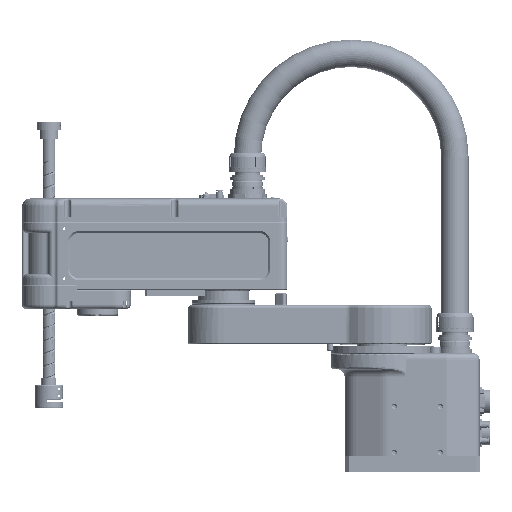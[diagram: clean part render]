
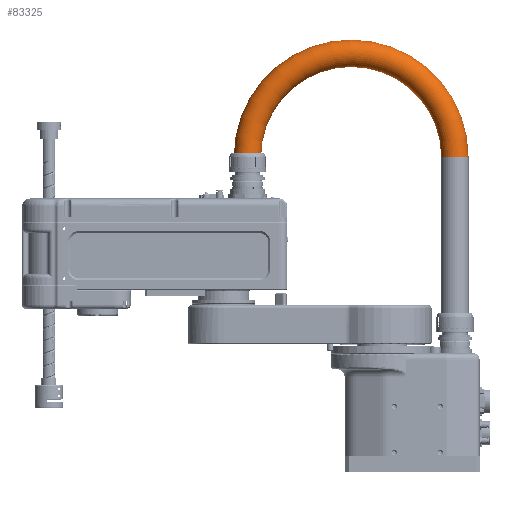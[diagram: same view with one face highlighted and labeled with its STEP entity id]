
A CAD part, top view. The second image highlights one B-rep face of the part: STEP entity #83325.
In plain terms, the highlighted toroidal (fillet/blend) face has major radius 130.75 mm and minor radius 17.25 mm.
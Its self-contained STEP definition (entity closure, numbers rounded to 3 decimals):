
#524 = EDGE_CURVE ( 'NONE', #151937, #64577, #43199, .T. ) ;
#547 = VERTEX_POINT ( 'NONE', #59205 ) ;
#4446 = ORIENTED_EDGE ( 'NONE', *, *, #67156, .F. ) ;
#10400 = AXIS2_PLACEMENT_3D ( 'NONE', #60355, #166635, #139111 ) ;
#13332 = EDGE_CURVE ( 'NONE', #144993, #547, #89293, .T. ) ;
#14633 = CIRCLE ( 'NONE', #127883, 17.25 ) ;
#19281 = CARTESIAN_POINT ( 'NONE',  ( -39.25, 397.19, 0. ) ) ;
#28655 = FACE_OUTER_BOUND ( 'NONE', #108473, .T. ) ;
#32124 = DIRECTION ( 'NONE',  ( 0., 0., 1. ) ) ;
#39908 = AXIS2_PLACEMENT_3D ( 'NONE', #19281, #45240, #166117 ) ;
#42737 = CIRCLE ( 'NONE', #65484, 113.5 ) ;
#43161 = EDGE_CURVE ( 'NONE', #44552, #151937, #117105, .T. ) ;
#43199 = CIRCLE ( 'NONE', #49543, 148. ) ;
#44552 = VERTEX_POINT ( 'NONE', #148980 ) ;
#45240 = DIRECTION ( 'NONE',  ( 0., 0., 1. ) ) ;
#48142 = CARTESIAN_POINT ( 'NONE',  ( -170., 397.19, 0. ) ) ;
#49543 = AXIS2_PLACEMENT_3D ( 'NONE', #85662, #32124, #86250 ) ;
#59205 = CARTESIAN_POINT ( 'NONE',  ( -170., 397.19, 17.25 ) ) ;
#60355 = CARTESIAN_POINT ( 'NONE',  ( 91.5, 397.19, 0. ) ) ;
#63845 = CARTESIAN_POINT ( 'NONE',  ( -187.25, 397.19, 0. ) ) ;
#64577 = VERTEX_POINT ( 'NONE', #63845 ) ;
#65377 = AXIS2_PLACEMENT_3D ( 'NONE', #48142, #87526, #169031 ) ;
#65484 = AXIS2_PLACEMENT_3D ( 'NONE', #168158, #74820, #74247 ) ;
#67156 = EDGE_CURVE ( 'NONE', #547, #64577, #14633, .T. ) ;
#74247 = DIRECTION ( 'NONE',  ( 1., 0., 0. ) ) ;
#74820 = DIRECTION ( 'NONE',  ( 0., 0., 1. ) ) ;
#83325 = ADVANCED_FACE ( 'NONE', ( #28655 ), #121276, .T. ) ;
#85662 = CARTESIAN_POINT ( 'NONE',  ( -39.25, 397.19, 0. ) ) ;
#86250 = DIRECTION ( 'NONE',  ( 1., 0., 0. ) ) ;
#87526 = DIRECTION ( 'NONE',  ( 0., -1., 0. ) ) ;
#89293 = CIRCLE ( 'NONE', #65377, 17.25 ) ;
#95559 = ORIENTED_EDGE ( 'NONE', *, *, #113328, .F. ) ;
#108124 = CARTESIAN_POINT ( 'NONE',  ( 108.75, 397.19, 0. ) ) ;
#108473 = EDGE_LOOP ( 'NONE', ( #171452, #131131, #4446, #117120, #95559 ) ) ;
#113328 = EDGE_CURVE ( 'NONE', #44552, #144993, #42737, .T. ) ;
#117105 = CIRCLE ( 'NONE', #10400, 17.25 ) ;
#117120 = ORIENTED_EDGE ( 'NONE', *, *, #13332, .F. ) ;
#121276 = TOROIDAL_SURFACE ( 'NONE', #39908, 130.75, 17.25 ) ;
#122585 = CARTESIAN_POINT ( 'NONE',  ( -152.75, 397.19, 0. ) ) ;
#127883 = AXIS2_PLACEMENT_3D ( 'NONE', #145534, #133161, #158974 ) ;
#131131 = ORIENTED_EDGE ( 'NONE', *, *, #524, .T. ) ;
#133161 = DIRECTION ( 'NONE',  ( 0., -1., 0. ) ) ;
#139111 = DIRECTION ( 'NONE',  ( 0., 0., 1. ) ) ;
#144993 = VERTEX_POINT ( 'NONE', #122585 ) ;
#145534 = CARTESIAN_POINT ( 'NONE',  ( -170., 397.19, 0. ) ) ;
#148980 = CARTESIAN_POINT ( 'NONE',  ( 74.25, 397.19, 0. ) ) ;
#151937 = VERTEX_POINT ( 'NONE', #108124 ) ;
#158974 = DIRECTION ( 'NONE',  ( 0., 0., 1. ) ) ;
#166117 = DIRECTION ( 'NONE',  ( 1., 0., 0. ) ) ;
#166635 = DIRECTION ( 'NONE',  ( 0., 1., 0. ) ) ;
#168158 = CARTESIAN_POINT ( 'NONE',  ( -39.25, 397.19, 0. ) ) ;
#169031 = DIRECTION ( 'NONE',  ( 0., 0., 1. ) ) ;
#171452 = ORIENTED_EDGE ( 'NONE', *, *, #43161, .T. ) ;
